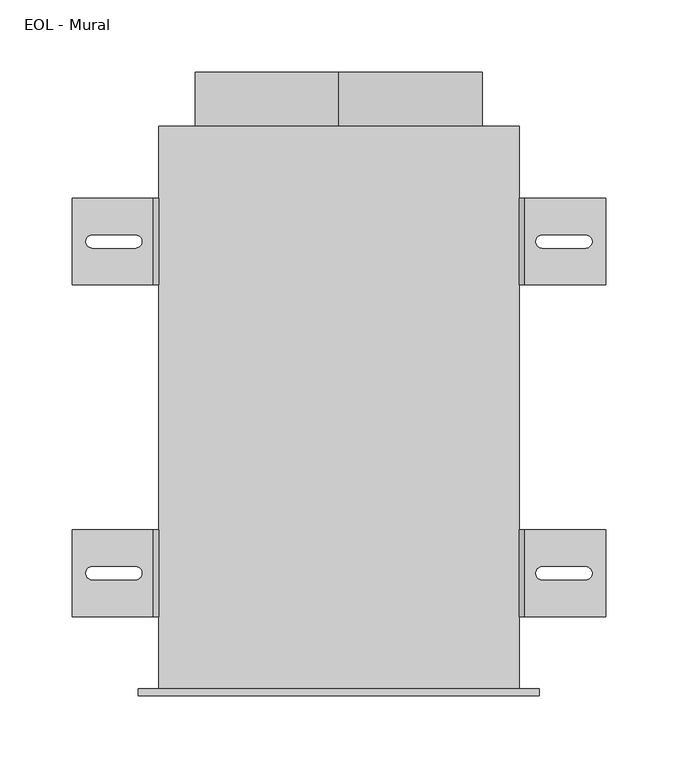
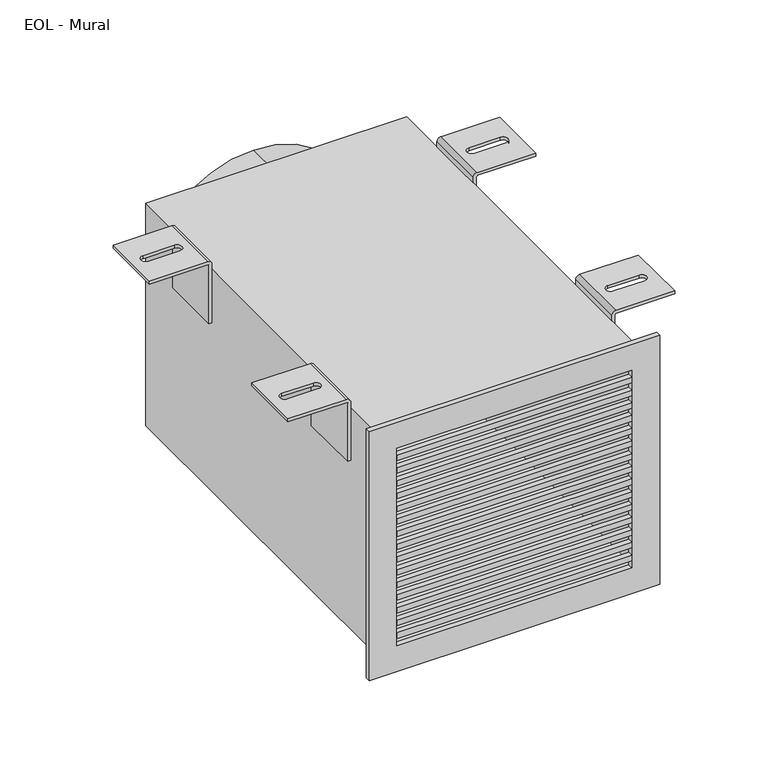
"""IFC4 building model written with IfcOpenShell, lengths in millimetres: air terminal geometry, EOL - Mural : EOL-M200-250x225-2."""

from ifc_helpers import new_model, si_unit, point, frame, origin, origin_2d, place, context, project, spatial, polyline, circle_curve, ellipse_curve, trimmed, segment, composite_curve, outline, extrude, source, transform, mapped, element, save
from ifc_brep_helpers import plane_surface, cylinder_surface, revolved_surface, extruded_surface, advanced_brep


def eol_mural_228bd709(model_context):
    return source(origin(), model_context, "Body", "SolidModel", [
        advanced_brep(
        [(129.0013366, 110.0, 121.5), (185.0, 110.0, 121.5), (185.0, 110.0, 118.5), (129.0, 110.0, 118.5), (128.0, 110.0, 117.5), (128.0, 110.0, 58.5), (125.0, 110.0, 58.5), (125.0, 110.0, 117.4986634), (129.0013366, 50.0, 121.5), (125.0, 50.0, 117.4986634), (125.0, 50.0, 58.5), (128.0, 50.0, 58.5), (128.0, 50.0, 117.5), (129.0, 50.0, 118.5), (185.0, 50.0, 118.5), (185.0, 50.0, 121.5), (171.0287952, 75.4804328, 121.5), (141.0287952, 75.4804328, 121.5), (141.0287952, 84.4804328, 121.5), (171.0287952, 84.4804328, 121.5), (141.0287952, 75.4804328, 118.5), (171.0287952, 75.4804328, 118.5), (171.0287952, 84.4804328, 118.5), (141.0287952, 84.4804328, 118.5)],
        [
            (0, 1),
            (1, 2),
            (2, 3),
            (3, 4, circle_curve(frame((129.0, 110.0, 117.5), z_axis=(0.0, -1.0, 0.0), x_axis=(-1.0000000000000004, 0.0, 0.0)), 1.0)),
            (4, 5),
            (5, 6),
            (6, 7),
            (7, 0, circle_curve(frame((129.0013366, 110.0, 117.4986634), z_axis=(0.0, 1.0, 0.0), x_axis=(-1.0000000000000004, 0.0, 0.0)), 4.0013366)),
            (8, 9, circle_curve(frame((129.0013366, 50.0, 117.4986634), z_axis=(0.0, -1.0, 0.0), x_axis=(-1.0000000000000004, 0.0, 0.0)), 4.0013366)),
            (9, 10),
            (10, 11),
            (11, 12),
            (12, 13, circle_curve(frame((129.0, 50.0, 117.5), z_axis=(0.0, 1.0, 0.0), x_axis=(-1.0000000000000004, 0.0, 0.0)), 1.0)),
            (13, 14),
            (14, 15),
            (15, 8),
            (0, 8),
            (15, 1),
            (16, 17),
            (17, 18, circle_curve(frame((141.0287952, 79.9804328, 121.5), z_axis=(0.0, 0.0, -1.0), x_axis=(0.0, -1.0, 0.0)), 4.5)),
            (18, 19),
            (19, 16, circle_curve(frame((171.0287952, 79.9804328, 121.5), z_axis=(0.0, 0.0, -1.0), x_axis=(0.0, -1.0, 0.0)), 4.5)),
            (14, 2),
            (13, 3),
            (20, 21),
            (21, 22, ellipse_curve(frame((171.0287952, 79.9804328, 118.5), z_axis=(0.0, 0.0, 1.0), x_axis=(0.0, -1.0, 0.0)), 4.5, 4.5)),
            (22, 23),
            (23, 20, ellipse_curve(frame((141.0287952, 79.9804328, 118.5), z_axis=(0.0, 0.0, 1.0), x_axis=(0.0, -1.0, 0.0)), 4.5, 4.5)),
            (12, 4),
            (11, 5),
            (10, 6),
            (9, 7),
            (16, 21),
            (20, 17),
            (19, 22),
            (18, 23),
        ],
        [
            plane_surface(frame((185.0, 110.0, 121.5), z_axis=(0.0, 1.0, 0.0), x_axis=(1.0, 0.0, 0.0))),
            plane_surface(frame((185.0, 50.0, 121.5), z_axis=(0.0, -1.0, 0.0), x_axis=(-1.0, 0.0, 0.0))),
            plane_surface(frame((129.0013366, 110.0, 121.5), z_axis=(0.0, 0.0, 1.0), x_axis=(0.0, -1.0, 0.0))),
            plane_surface(frame((185.0, 110.0, 121.5), z_axis=(1.0, 0.0, 0.0), x_axis=(0.0, -1.0, 0.0))),
            plane_surface(frame((185.0, 110.0, 118.5), z_axis=(0.0, 0.0, -1.0), x_axis=(0.0, -1.0, 0.0))),
            revolved_surface(polyline([(128.0, 50.0, 117.5), (128.0, 110.00000000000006, 117.5)]), (129.0, 50.0, 117.5), (0.0, -1.0000000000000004, 0.0)),
            plane_surface(frame((128.0, 110.0, 117.5), z_axis=(1.0, 0.0, 0.0), x_axis=(0.0, -1.0, 0.0))),
            plane_surface(frame((128.0, 110.0, 58.5), z_axis=(0.0, 0.0, -1.0), x_axis=(0.0, -1.0, 0.0))),
            plane_surface(frame((125.0, 110.0, 58.5), z_axis=(-1.0, 0.0, 0.0), x_axis=(0.0, -1.0, 0.0))),
            cylinder_surface(frame((129.0013366, 50.0, 117.4986634), z_axis=(0.0, 1.0000000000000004, 0.0), x_axis=(-1.0000000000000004, 0.0, 0.0)), 4.0013366),
            plane_surface(frame((141.0287952, 75.4804328, 121.5), z_axis=(0.0, 1.0, 0.0), x_axis=(0.0, 0.0, -1.0))),
            extruded_surface(trimmed(ellipse_curve(frame((171.0287952, 79.9804328, 118.5), z_axis=(0.0, 0.0, 1.0), x_axis=(0.0, -1.0, 0.0)), 4.5, 4.5), [point((171.0287952, 75.4804328, 118.5))], [point((171.0287952, 84.4804328, 118.5))], True, "CARTESIAN"), (0.0, 0.0, -3.0), 3.0),
            plane_surface(frame((171.0287952, 84.4804328, 121.5), z_axis=(0.0, -1.0, 0.0), x_axis=(0.0, 0.0, -1.0))),
            extruded_surface(trimmed(ellipse_curve(frame((141.0287952, 79.9804328, 118.5), z_axis=(0.0, 0.0, 1.0), x_axis=(0.0, -1.0, 0.0)), 4.5, 4.5), [point((141.0287952, 84.4804328, 118.5))], [point((141.0287952, 75.4804328, 118.5))], True, "CARTESIAN"), (0.0, 0.0, -3.0), 3.0),
        ],
        [
            (0, [[1, 2, 3, 4, 5, 6, 7, 8]]),
            (1, [[9, 10, 11, 12, 13, 14, 15, 16]]),
            (2, [[-1, 17, -16, 18], [19, 20, 21, 22]]),
            (3, [[-2, -18, -15, 23]]),
            (4, [[-3, -23, -14, 24], [25, 26, 27, 28]]),
            (5, [[-4, -24, -13, 29]]),
            (6, [[-5, -29, -12, 30]]),
            (7, [[-6, -30, -11, 31]]),
            (8, [[-7, -31, -10, 32]]),
            (9, [[-8, -32, -9, -17]]),
            (10, [[33, -25, 34, -19]]),
            (11, [[-33, -22, 35, -26]]),
            (12, [[-35, -21, 36, -27]]),
            (13, [[-34, -28, -36, -20]]),
        ],
    ),
        advanced_brep(
        [(129.0013366, 340.0, 121.5), (185.0, 340.0, 121.5), (185.0, 340.0, 118.5), (129.0, 340.0, 118.5), (128.0, 340.0, 117.5), (128.0, 340.0, 58.5), (125.0, 340.0, 58.5), (125.0, 340.0, 117.4986634), (129.0013366, 280.0, 121.5), (125.0, 280.0, 117.4986634), (125.0, 280.0, 58.5), (128.0, 280.0, 58.5), (128.0, 280.0, 117.5), (129.0, 280.0, 118.5), (185.0, 280.0, 118.5), (185.0, 280.0, 121.5), (171.0287952, 305.4804328, 121.5), (141.0287952, 305.4804328, 121.5), (141.0287952, 314.4804328, 121.5), (171.0287952, 314.4804328, 121.5), (141.0287952, 305.4804328, 118.5), (171.0287952, 305.4804328, 118.5), (171.0287952, 314.4804328, 118.5), (141.0287952, 314.4804328, 118.5)],
        [
            (0, 1),
            (1, 2),
            (2, 3),
            (3, 4, circle_curve(frame((129.0, 340.0, 117.5), z_axis=(0.0, -1.0, 0.0), x_axis=(-1.0, 0.0, 0.0)), 1.0)),
            (4, 5),
            (5, 6),
            (6, 7),
            (7, 0, circle_curve(frame((129.0013366, 340.0, 117.4986634), z_axis=(0.0, 1.0, 0.0), x_axis=(-1.0, 0.0, 0.0)), 4.0013366)),
            (8, 9, circle_curve(frame((129.0013366, 280.0, 117.4986634), z_axis=(0.0, -1.0, 0.0), x_axis=(-1.0, 0.0, 0.0)), 4.0013366)),
            (9, 10),
            (10, 11),
            (11, 12),
            (12, 13, circle_curve(frame((129.0, 280.0, 117.5), z_axis=(0.0, 1.0, 0.0), x_axis=(-1.0, 0.0, 0.0)), 1.0)),
            (13, 14),
            (14, 15),
            (15, 8),
            (0, 8),
            (15, 1),
            (16, 17),
            (17, 18, circle_curve(frame((141.0287952, 309.9804328, 121.5), z_axis=(0.0, 0.0, -1.0), x_axis=(0.0, -1.0, 0.0)), 4.5)),
            (18, 19),
            (19, 16, circle_curve(frame((171.0287952, 309.9804328, 121.5), z_axis=(0.0, 0.0, -1.0), x_axis=(0.0, -1.0, 0.0)), 4.5)),
            (14, 2),
            (13, 3),
            (20, 21),
            (21, 22, ellipse_curve(frame((171.0287952, 309.9804328, 118.5), z_axis=(0.0, 0.0, 1.0), x_axis=(0.0, -1.0, 0.0)), 4.5, 4.5)),
            (22, 23),
            (23, 20, ellipse_curve(frame((141.0287952, 309.9804328, 118.5), z_axis=(0.0, 0.0, 1.0), x_axis=(0.0, -1.0, 0.0)), 4.5, 4.5)),
            (12, 4),
            (11, 5),
            (10, 6),
            (9, 7),
            (16, 21),
            (20, 17),
            (19, 22),
            (18, 23),
        ],
        [
            plane_surface(frame((185.0, 340.0, 121.5), z_axis=(0.0, 1.0, 0.0), x_axis=(1.0, 0.0, 0.0))),
            plane_surface(frame((185.0, 280.0, 121.5), z_axis=(0.0, -1.0, 0.0), x_axis=(-1.0, 0.0, 0.0))),
            plane_surface(frame((129.0013366, 340.0, 121.5), z_axis=(0.0, 0.0, 1.0), x_axis=(0.0, -1.0, 0.0))),
            plane_surface(frame((185.0, 340.0, 121.5), z_axis=(1.0, 0.0, 0.0), x_axis=(0.0, -1.0, 0.0))),
            plane_surface(frame((185.0, 340.0, 118.5), z_axis=(0.0, 0.0, -1.0), x_axis=(0.0, -1.0, 0.0))),
            revolved_surface(polyline([(128.0, 280.0, 117.5), (128.0, 340.0, 117.5)]), (129.0, 280.0, 117.5), (0.0, -1.0, 0.0)),
            plane_surface(frame((128.0, 340.0, 117.5), z_axis=(1.0, 0.0, 0.0), x_axis=(0.0, -1.0, 0.0))),
            plane_surface(frame((128.0, 340.0, 58.5), z_axis=(0.0, 0.0, -1.0), x_axis=(0.0, -1.0, 0.0))),
            plane_surface(frame((125.0, 340.0, 58.5), z_axis=(-1.0, 0.0, 0.0), x_axis=(0.0, -1.0, 0.0))),
            cylinder_surface(frame((129.0013366, 280.0, 117.4986634), z_axis=(0.0, 1.0, 0.0), x_axis=(-1.0, 0.0, 0.0)), 4.0013366),
            plane_surface(frame((141.0287952, 305.4804328, 121.5), z_axis=(0.0, 1.0, 0.0), x_axis=(0.0, 0.0, -1.0))),
            extruded_surface(trimmed(ellipse_curve(frame((171.0287952, 309.9804328, 118.5), z_axis=(0.0, 0.0, 1.0), x_axis=(0.0, -1.0, 0.0)), 4.5, 4.5), [point((171.0287952, 305.4804328, 118.5))], [point((171.0287952, 314.4804328, 118.5))], True, "CARTESIAN"), (0.0, 0.0, -3.0), 3.0),
            plane_surface(frame((171.0287952, 314.4804328, 121.5), z_axis=(0.0, -1.0, 0.0), x_axis=(0.0, 0.0, -1.0))),
            extruded_surface(trimmed(ellipse_curve(frame((141.0287952, 309.9804328, 118.5), z_axis=(0.0, 0.0, 1.0), x_axis=(0.0, -1.0, 0.0)), 4.5, 4.5), [point((141.0287952, 314.4804328, 118.5))], [point((141.0287952, 305.4804328, 118.5))], True, "CARTESIAN"), (0.0, 0.0, -3.0), 3.0),
        ],
        [
            (0, [[1, 2, 3, 4, 5, 6, 7, 8]]),
            (1, [[9, 10, 11, 12, 13, 14, 15, 16]]),
            (2, [[-1, 17, -16, 18], [19, 20, 21, 22]]),
            (3, [[-2, -18, -15, 23]]),
            (4, [[-3, -23, -14, 24], [25, 26, 27, 28]]),
            (5, [[-4, -24, -13, 29]]),
            (6, [[-5, -29, -12, 30]]),
            (7, [[-6, -30, -11, 31]]),
            (8, [[-7, -31, -10, 32]]),
            (9, [[-8, -32, -9, -17]]),
            (10, [[33, -25, 34, -19]]),
            (11, [[-33, -22, 35, -26]]),
            (12, [[-35, -21, 36, -27]]),
            (13, [[-34, -28, -36, -20]]),
        ],
    ),
        advanced_brep(
        [(-129.0013366, 50.0, 121.5), (-185.0, 50.0, 121.5), (-185.0, 50.0, 118.5), (-129.0, 50.0, 118.5), (-128.0, 50.0, 117.5), (-128.0, 50.0, 58.5), (-125.0, 50.0, 58.5), (-125.0, 50.0, 117.4986634), (-129.0013366, 110.0, 121.5), (-125.0, 110.0, 117.4986634), (-125.0, 110.0, 58.5), (-128.0, 110.0, 58.5), (-128.0, 110.0, 117.5), (-129.0, 110.0, 118.5), (-185.0, 110.0, 118.5), (-185.0, 110.0, 121.5), (-171.0287952, 84.5195672, 121.5), (-141.0287952, 84.5195672, 121.5), (-141.0287952, 75.5195672, 121.5), (-171.0287952, 75.5195672, 121.5), (-141.0287952, 84.5195672, 118.5), (-171.0287952, 84.5195672, 118.5), (-171.0287952, 75.5195672, 118.5), (-141.0287952, 75.5195672, 118.5)],
        [
            (0, 1),
            (1, 2),
            (2, 3),
            (3, 4, circle_curve(frame((-129.0, 50.0, 117.5), z_axis=(0.0, 1.0, 0.0), x_axis=(1.0, 0.0, 0.0)), 1.0)),
            (4, 5),
            (5, 6),
            (6, 7),
            (7, 0, circle_curve(frame((-129.0013366, 50.0, 117.4986634), z_axis=(0.0, -1.0, 0.0), x_axis=(1.0, 0.0, 0.0)), 4.0013366)),
            (8, 9, circle_curve(frame((-129.0013366, 110.0, 117.4986634), z_axis=(0.0, 1.0, 0.0), x_axis=(1.0, 0.0, 0.0)), 4.0013366)),
            (9, 10),
            (10, 11),
            (11, 12),
            (12, 13, circle_curve(frame((-129.0, 110.0, 117.5), z_axis=(0.0, -1.0, 0.0), x_axis=(1.0, 0.0, 0.0)), 1.0)),
            (13, 14),
            (14, 15),
            (15, 8),
            (0, 8),
            (15, 1),
            (16, 17),
            (17, 18, circle_curve(frame((-141.0287952, 80.0195672, 121.5), z_axis=(0.0, 0.0, -1.0), x_axis=(0.0, 1.0, 0.0)), 4.5)),
            (18, 19),
            (19, 16, circle_curve(frame((-171.0287952, 80.0195672, 121.5), z_axis=(0.0, 0.0, -1.0), x_axis=(0.0, 1.0, 0.0)), 4.5)),
            (14, 2),
            (13, 3),
            (20, 21),
            (21, 22, ellipse_curve(frame((-171.0287952, 80.0195672, 118.5), z_axis=(0.0, 0.0, 1.0), x_axis=(0.0, 1.0, 0.0)), 4.5, 4.5)),
            (22, 23),
            (23, 20, ellipse_curve(frame((-141.0287952, 80.0195672, 118.5), z_axis=(0.0, 0.0, 1.0), x_axis=(0.0, 1.0, 0.0)), 4.5, 4.5)),
            (12, 4),
            (11, 5),
            (10, 6),
            (9, 7),
            (16, 21),
            (20, 17),
            (19, 22),
            (18, 23),
        ],
        [
            plane_surface(frame((-185.0, 50.0, 121.5), z_axis=(0.0, -1.0, 0.0), x_axis=(-1.0, 0.0, 0.0))),
            plane_surface(frame((-185.0, 110.0, 121.5), z_axis=(0.0, 1.0, 0.0), x_axis=(1.0, 0.0, 0.0))),
            plane_surface(frame((-129.0013366, 50.0, 121.5), z_axis=(0.0, 0.0, 1.0), x_axis=(0.0, 1.0, 0.0))),
            plane_surface(frame((-185.0, 50.0, 121.5), z_axis=(-1.0, 0.0, 0.0), x_axis=(0.0, 1.0, 0.0))),
            plane_surface(frame((-185.0, 50.0, 118.5), z_axis=(0.0, 0.0, -1.0), x_axis=(0.0, 1.0, 0.0))),
            revolved_surface(polyline([(-128.0, 110.0, 117.5), (-128.0, 50.0, 117.5)]), (-129.0, 110.0, 117.5), (0.0, 1.0, 0.0)),
            plane_surface(frame((-128.0, 50.0, 117.5), z_axis=(-1.0, 0.0, 0.0), x_axis=(0.0, 1.0, 0.0))),
            plane_surface(frame((-128.0, 50.0, 58.5), z_axis=(0.0, 0.0, -1.0), x_axis=(0.0, 1.0, 0.0))),
            plane_surface(frame((-125.0, 50.0, 58.5), z_axis=(1.0, 0.0, 0.0), x_axis=(0.0, 1.0, 0.0))),
            cylinder_surface(frame((-129.0013366, 110.0, 117.4986634), z_axis=(0.0, -1.0, 0.0), x_axis=(1.0, 0.0, 0.0)), 4.0013366),
            plane_surface(frame((-141.0287952, 84.5195672, 121.5), z_axis=(0.0, -1.0, 0.0), x_axis=(0.0, 0.0, -1.0))),
            extruded_surface(trimmed(ellipse_curve(frame((-171.0287952, 80.0195672, 118.5), z_axis=(0.0, 0.0, 1.0), x_axis=(0.0, 1.0, 0.0)), 4.5, 4.5), [point((-171.0287952, 84.5195672, 118.5))], [point((-171.0287952, 75.5195672, 118.5))], True, "CARTESIAN"), (0.0, 0.0, -3.0), 3.0),
            plane_surface(frame((-171.0287952, 75.5195672, 121.5), z_axis=(0.0, 1.0, 0.0), x_axis=(0.0, 0.0, -1.0))),
            extruded_surface(trimmed(ellipse_curve(frame((-141.0287952, 80.0195672, 118.5), z_axis=(0.0, 0.0, 1.0), x_axis=(0.0, 1.0, 0.0)), 4.5, 4.5), [point((-141.0287952, 75.5195672, 118.5))], [point((-141.0287952, 84.5195672, 118.5))], True, "CARTESIAN"), (0.0, 0.0, -3.0), 3.0),
        ],
        [
            (0, [[1, 2, 3, 4, 5, 6, 7, 8]]),
            (1, [[9, 10, 11, 12, 13, 14, 15, 16]]),
            (2, [[-1, 17, -16, 18], [19, 20, 21, 22]]),
            (3, [[-2, -18, -15, 23]]),
            (4, [[-3, -23, -14, 24], [25, 26, 27, 28]]),
            (5, [[-4, -24, -13, 29]]),
            (6, [[-5, -29, -12, 30]]),
            (7, [[-6, -30, -11, 31]]),
            (8, [[-7, -31, -10, 32]]),
            (9, [[-8, -32, -9, -17]]),
            (10, [[33, -25, 34, -19]]),
            (11, [[-33, -22, 35, -26]]),
            (12, [[-35, -21, 36, -27]]),
            (13, [[-34, -28, -36, -20]]),
        ],
    ),
        advanced_brep(
        [(-129.0013366, 280.0, 121.5), (-185.0, 280.0, 121.5), (-185.0, 280.0, 118.5), (-129.0, 280.0, 118.5), (-128.0, 280.0, 117.5), (-128.0, 280.0, 58.5), (-125.0, 280.0, 58.5), (-125.0, 280.0, 117.4986634), (-129.0013366, 340.0, 121.5), (-125.0, 340.0, 117.4986634), (-125.0, 340.0, 58.5), (-128.0, 340.0, 58.5), (-128.0, 340.0, 117.5), (-129.0, 340.0, 118.5), (-185.0, 340.0, 118.5), (-185.0, 340.0, 121.5), (-171.0287952, 314.5195672, 121.5), (-141.0287952, 314.5195672, 121.5), (-141.0287952, 305.5195672, 121.5), (-171.0287952, 305.5195672, 121.5), (-141.0287952, 314.5195672, 118.5), (-171.0287952, 314.5195672, 118.5), (-171.0287952, 305.5195672, 118.5), (-141.0287952, 305.5195672, 118.5)],
        [
            (0, 1),
            (1, 2),
            (2, 3),
            (3, 4, circle_curve(frame((-129.0, 280.0, 117.5), z_axis=(0.0, 1.0, 0.0), x_axis=(1.0, 0.0, 0.0)), 1.0)),
            (4, 5),
            (5, 6),
            (6, 7),
            (7, 0, circle_curve(frame((-129.0013366, 280.0, 117.4986634), z_axis=(0.0, -1.0, 0.0), x_axis=(1.0, 0.0, 0.0)), 4.0013366)),
            (8, 9, circle_curve(frame((-129.0013366, 340.0, 117.4986634), z_axis=(0.0, 1.0, 0.0), x_axis=(1.0, 0.0, 0.0)), 4.0013366)),
            (9, 10),
            (10, 11),
            (11, 12),
            (12, 13, circle_curve(frame((-129.0, 340.0, 117.5), z_axis=(0.0, -1.0, 0.0), x_axis=(1.0, 0.0, 0.0)), 1.0)),
            (13, 14),
            (14, 15),
            (15, 8),
            (0, 8),
            (15, 1),
            (16, 17),
            (17, 18, circle_curve(frame((-141.0287952, 310.0195672, 121.5), z_axis=(0.0, 0.0, -1.0), x_axis=(0.0, 1.0, 0.0)), 4.5)),
            (18, 19),
            (19, 16, circle_curve(frame((-171.0287952, 310.0195672, 121.5), z_axis=(0.0, 0.0, -1.0), x_axis=(0.0, 1.0, 0.0)), 4.5)),
            (14, 2),
            (13, 3),
            (20, 21),
            (21, 22, ellipse_curve(frame((-171.0287952, 310.0195672, 118.5), z_axis=(0.0, 0.0, 1.0), x_axis=(0.0, 1.0, 0.0)), 4.5, 4.5)),
            (22, 23),
            (23, 20, ellipse_curve(frame((-141.0287952, 310.0195672, 118.5), z_axis=(0.0, 0.0, 1.0), x_axis=(0.0, 1.0, 0.0)), 4.5, 4.5)),
            (12, 4),
            (11, 5),
            (10, 6),
            (9, 7),
            (16, 21),
            (20, 17),
            (19, 22),
            (18, 23),
        ],
        [
            plane_surface(frame((-185.0, 280.0, 121.5), z_axis=(0.0, -1.0, 0.0), x_axis=(-1.0, 0.0, 0.0))),
            plane_surface(frame((-185.0, 340.0, 121.5), z_axis=(0.0, 1.0, 0.0), x_axis=(1.0, 0.0, 0.0))),
            plane_surface(frame((-129.0013366, 280.0, 121.5), z_axis=(0.0, 0.0, 1.0), x_axis=(0.0, 1.0, 0.0))),
            plane_surface(frame((-185.0, 280.0, 121.5), z_axis=(-1.0, 0.0, 0.0), x_axis=(0.0, 1.0, 0.0))),
            plane_surface(frame((-185.0, 280.0, 118.5), z_axis=(0.0, 0.0, -1.0), x_axis=(0.0, 1.0, 0.0))),
            revolved_surface(polyline([(-128.0, 340.0, 117.5), (-128.0, 280.0, 117.5)]), (-129.0, 340.0, 117.5), (0.0, 1.0, 0.0)),
            plane_surface(frame((-128.0, 280.0, 117.5), z_axis=(-1.0, 0.0, 0.0), x_axis=(0.0, 1.0, 0.0))),
            plane_surface(frame((-128.0, 280.0, 58.5), z_axis=(0.0, 0.0, -1.0), x_axis=(0.0, 1.0, 0.0))),
            plane_surface(frame((-125.0, 280.0, 58.5), z_axis=(1.0, 0.0, 0.0), x_axis=(0.0, 1.0, 0.0))),
            cylinder_surface(frame((-129.0013366, 340.0, 117.4986634), z_axis=(0.0, -1.0, 0.0), x_axis=(1.0, 0.0, 0.0)), 4.0013366),
            plane_surface(frame((-141.0287952, 314.5195672, 121.5), z_axis=(0.0, -1.0, 0.0), x_axis=(0.0, 0.0, -1.0))),
            extruded_surface(trimmed(ellipse_curve(frame((-171.0287952, 310.0195672, 118.5), z_axis=(0.0, 0.0, 1.0), x_axis=(0.0, 1.0, 0.0)), 4.5, 4.5), [point((-171.0287952, 314.5195672, 118.5))], [point((-171.0287952, 305.5195672, 118.5))], True, "CARTESIAN"), (0.0, 0.0, -3.0), 3.0),
            plane_surface(frame((-171.0287952, 305.5195672, 121.5), z_axis=(0.0, 1.0, 0.0), x_axis=(0.0, 0.0, -1.0))),
            extruded_surface(trimmed(ellipse_curve(frame((-141.0287952, 310.0195672, 118.5), z_axis=(0.0, 0.0, 1.0), x_axis=(0.0, 1.0, 0.0)), 4.5, 4.5), [point((-141.0287952, 305.5195672, 118.5))], [point((-141.0287952, 314.5195672, 118.5))], True, "CARTESIAN"), (0.0, 0.0, -3.0), 3.0),
        ],
        [
            (0, [[1, 2, 3, 4, 5, 6, 7, 8]]),
            (1, [[9, 10, 11, 12, 13, 14, 15, 16]]),
            (2, [[-1, 17, -16, 18], [19, 20, 21, 22]]),
            (3, [[-2, -18, -15, 23]]),
            (4, [[-3, -23, -14, 24], [25, 26, 27, 28]]),
            (5, [[-4, -24, -13, 29]]),
            (6, [[-5, -29, -12, 30]]),
            (7, [[-6, -30, -11, 31]]),
            (8, [[-7, -31, -10, 32]]),
            (9, [[-8, -32, -9, -17]]),
            (10, [[33, -25, 34, -19]]),
            (11, [[-33, -22, 35, -26]]),
            (12, [[-35, -21, 36, -27]]),
            (13, [[-34, -28, -36, -20]]),
        ],
    ),
        extrude(outline(composite_curve([segment(trimmed(circle_curve(origin_2d(), 100.0), [point((-100.0, 0.0))], [point((100.0, 0.0))], False, "CARTESIAN"), True, "CONTINUOUS"), segment(trimmed(circle_curve(origin_2d(), 100.0), [point((100.0, 0.0))], [point((-100.0, 0.0))], False, "CARTESIAN"), True, "CONTINUOUS")], self_intersect=False), holes=[composite_curve([segment(trimmed(circle_curve(origin_2d(), 99.0), [point((0.0, 99.0))], [point((0.0, -99.0))], True, "CARTESIAN"), True, "CONTINUOUS"), segment(trimmed(circle_curve(origin_2d(), 99.0), [point((0.0, -99.0))], [point((0.0, 99.0))], True, "CARTESIAN"), True, "CONTINUOUS")], self_intersect=False)]), frame((0.0, 390.0, 0.0), z_axis=(0.0, 1.0, 0.0), x_axis=(0.0, 0.0, 1.0)), (0.0, 0.0, 1.0), 37.5),
        extrude(outline(polyline([(112.5, 0.0), (112.5, -5.0), (-112.5, -5.0), (-112.5, 0.0), (112.5, 0.0)])), frame((0.0, 0.0, 87.15), z_axis=(0.0, 0.0, 1.0), x_axis=(1.0, 0.0, 0.0)), (0.0, 0.0, 1.0), 5.6),
        extrude(outline(polyline([(112.5, 0.0), (112.5, -5.0), (-112.5, -5.0), (-112.5, 0.0), (112.5, 0.0)])), frame((0.0, 0.0, 74.3), z_axis=(0.0, 0.0, 1.0), x_axis=(1.0, 0.0, 0.0)), (0.0, 0.0, 1.0), 5.6),
        extrude(outline(polyline([(112.5, 0.0), (112.5, -5.0), (-112.5, -5.0), (-112.5, 0.0), (112.5, 0.0)])), frame((0.0, 0.0, 61.45), z_axis=(0.0, 0.0, 1.0), x_axis=(1.0, 0.0, 0.0)), (0.0, 0.0, 1.0), 5.6),
        extrude(outline(polyline([(112.5, 0.0), (112.5, -5.0), (-112.5, -5.0), (-112.5, 0.0), (112.5, 0.0)])), frame((0.0, 0.0, 48.6), z_axis=(0.0, 0.0, 1.0), x_axis=(1.0, 0.0, 0.0)), (0.0, 0.0, 1.0), 5.6),
        extrude(outline(polyline([(112.5, 0.0), (112.5, -5.0), (-112.5, -5.0), (-112.5, 0.0), (112.5, 0.0)])), frame((0.0, 0.0, 35.75), z_axis=(0.0, 0.0, 1.0), x_axis=(1.0, 0.0, 0.0)), (0.0, 0.0, 1.0), 5.6),
        extrude(outline(polyline([(112.5, 0.0), (112.5, -5.0), (-112.5, -5.0), (-112.5, 0.0), (112.5, 0.0)])), frame((0.0, 0.0, 22.9), z_axis=(0.0, 0.0, 1.0), x_axis=(1.0, 0.0, 0.0)), (0.0, 0.0, 1.0), 5.6),
        extrude(outline(polyline([(112.5, 0.0), (112.5, -5.0), (-112.5, -5.0), (-112.5, 0.0), (112.5, 0.0)])), frame((0.0, 0.0, 10.05), z_axis=(0.0, 0.0, 1.0), x_axis=(1.0, 0.0, 0.0)), (0.0, 0.0, 1.0), 5.6),
        extrude(outline(polyline([(112.5, 0.0), (112.5, -5.0), (-112.5, -5.0), (-112.5, 0.0), (112.5, 0.0)])), frame((0.0, 0.0, -2.8), z_axis=(0.0, 0.0, 1.0), x_axis=(1.0, 0.0, 0.0)), (0.0, 0.0, 1.0), 5.6),
        extrude(outline(polyline([(112.5, 0.0), (112.5, -5.0), (-112.5, -5.0), (-112.5, 0.0), (112.5, 0.0)])), frame((0.0, 0.0, -15.65), z_axis=(0.0, 0.0, 1.0), x_axis=(1.0, 0.0, 0.0)), (0.0, 0.0, 1.0), 5.6),
        extrude(outline(polyline([(112.5, 0.0), (112.5, -5.0), (-112.5, -5.0), (-112.5, 0.0), (112.5, 0.0)])), frame((0.0, 0.0, -28.5), z_axis=(0.0, 0.0, 1.0), x_axis=(1.0, 0.0, 0.0)), (0.0, 0.0, 1.0), 5.6),
        extrude(outline(polyline([(112.5, 0.0), (112.5, -5.0), (-112.5, -5.0), (-112.5, 0.0), (112.5, 0.0)])), frame((0.0, 0.0, -41.35), z_axis=(0.0, 0.0, 1.0), x_axis=(1.0, 0.0, 0.0)), (0.0, 0.0, 1.0), 5.6),
        extrude(outline(polyline([(112.5, 0.0), (112.5, -5.0), (-112.5, -5.0), (-112.5, 0.0), (112.5, 0.0)])), frame((0.0, 0.0, -54.2), z_axis=(0.0, 0.0, 1.0), x_axis=(1.0, 0.0, 0.0)), (0.0, 0.0, 1.0), 5.6),
        extrude(outline(polyline([(112.5, 0.0), (112.5, -5.0), (-112.5, -5.0), (-112.5, 0.0), (112.5, 0.0)])), frame((0.0, 0.0, -67.05), z_axis=(0.0, 0.0, 1.0), x_axis=(1.0, 0.0, 0.0)), (0.0, 0.0, 1.0), 5.6),
        extrude(outline(polyline([(112.5, 0.0), (112.5, -5.0), (-112.5, -5.0), (-112.5, 0.0), (112.5, 0.0)])), frame((0.0, 0.0, -79.9), z_axis=(0.0, 0.0, 1.0), x_axis=(1.0, 0.0, 0.0)), (0.0, 0.0, 1.0), 5.6),
        extrude(outline(polyline([(112.5, 0.0), (112.5, -5.0), (-112.5, -5.0), (-112.5, 0.0), (112.5, 0.0)])), frame((0.0, 0.0, -92.75), z_axis=(0.0, 0.0, 1.0), x_axis=(1.0, 0.0, 0.0)), (0.0, 0.0, 1.0), 5.6),
        extrude(outline(polyline([(126.0, 139.0), (126.0, -139.0), (-126.0, -139.0), (-126.0, 139.0), (126.0, 139.0)]), holes=[polyline([(100.0, 112.5), (-100.0, 112.5), (-100.0, -112.5), (100.0, -112.5), (100.0, 112.5)])]), frame((0.0, -5.0, 0.0), z_axis=(0.0, 1.0, 0.0), x_axis=(0.0, 0.0, 1.0)), (0.0, 0.0, 1.0), 5.0),
        advanced_brep(
        [(125.0, 390.0, 112.5), (-125.0, 390.0, 112.5), (-125.0, 0.0, 112.5), (125.0, 0.0, 112.5), (125.0, 390.0, -112.5), (125.0, 0.0, -112.5), (-125.0, 0.0, -112.5), (-125.0, 390.0, -112.5), (-99.0, 390.0, 0.0), (99.0, 390.0, 0.0), (-120.0, 0.0, 107.5), (120.0, 0.0, 107.5), (120.0, 0.0, -107.5), (-120.0, 0.0, -107.5), (120.0, 385.0, 107.5), (-120.0, 385.0, 107.5), (120.0, 385.0, -107.5), (-120.0, 385.0, -107.5), (99.0, 385.0, 0.0), (-99.0, 385.0, 0.0)],
        [
            (0, 1),
            (1, 2),
            (2, 3),
            (3, 0),
            (4, 5),
            (5, 6),
            (6, 7),
            (7, 4),
            (0, 4),
            (7, 1),
            (8, 9, circle_curve(frame((0.0, 390.0, 0.0), z_axis=(0.0, -1.0, 0.0), x_axis=(1.0, 0.0, 0.0)), 99.0)),
            (9, 8, circle_curve(frame((0.0, 390.0, 0.0), z_axis=(0.0, -1.0, 0.0), x_axis=(1.0, 0.0, 0.0)), 99.0)),
            (6, 2),
            (5, 3),
            (10, 11),
            (11, 12),
            (12, 13),
            (13, 10),
            (14, 11),
            (10, 15),
            (15, 14),
            (16, 17),
            (17, 13),
            (12, 16),
            (15, 17),
            (16, 14),
            (18, 19, circle_curve(frame((0.0, 385.0, 0.0), z_axis=(0.0, 1.0, 0.0), x_axis=(1.0, 0.0, 0.0)), 99.0)),
            (19, 18, circle_curve(frame((0.0, 385.0, 0.0), z_axis=(0.0, 1.0, 0.0), x_axis=(1.0, 0.0, 0.0)), 99.0)),
            (8, 19),
            (18, 9),
        ],
        [
            plane_surface(frame((-125.0, 390.0, 112.5), z_axis=(0.0, 0.0, 1.0), x_axis=(-1.0, 0.0, 0.0))),
            plane_surface(frame((-125.0, 390.0, -112.5), z_axis=(0.0, 0.0, -1.0), x_axis=(1.0, 0.0, 0.0))),
            plane_surface(frame((125.0, 390.0, 112.5), z_axis=(0.0, 1.0, 0.0), x_axis=(0.0, 0.0, -1.0))),
            plane_surface(frame((-125.0, 390.0, 112.5), z_axis=(-1.0, 0.0, 0.0), x_axis=(0.0, 0.0, -1.0))),
            plane_surface(frame((-125.0, 0.0, 112.5), z_axis=(0.0, -1.0, 0.0), x_axis=(0.0, 0.0, -1.0))),
            plane_surface(frame((125.0, 0.0, 112.5), z_axis=(1.0, 0.0, 0.0), x_axis=(0.0, 0.0, -1.0))),
            plane_surface(frame((-120.0, 385.0, 107.5), z_axis=(0.0, 0.0, -1.0), x_axis=(-1.0, 0.0, 0.0))),
            plane_surface(frame((-120.0, 385.0, -107.5), z_axis=(0.0, 0.0, 1.0), x_axis=(1.0, 0.0, 0.0))),
            plane_surface(frame((120.0, 385.0, 107.5), z_axis=(0.0, -1.0, 0.0), x_axis=(0.0, 0.0, -1.0))),
            plane_surface(frame((-120.0, 385.0, 107.5), z_axis=(1.0, 0.0, 0.0), x_axis=(0.0, 0.0, -1.0))),
            plane_surface(frame((120.0, 0.0, 107.5), z_axis=(-1.0, 0.0, 0.0), x_axis=(0.0, 0.0, -1.0))),
            revolved_surface(polyline([(99.0, 385.0, 0.0), (99.0, 390.0, 0.0)]), (0.0, 427.5, 0.0), (0.0, -1.0, 0.0)),
        ],
        [
            (0, [[1, 2, 3, 4]]),
            (1, [[5, 6, 7, 8]]),
            (2, [[-1, 9, -8, 10], [11, 12]]),
            (3, [[-2, -10, -7, 13]]),
            (4, [[-3, -13, -6, 14], [15, 16, 17, 18]]),
            (5, [[-4, -14, -5, -9]]),
            (6, [[19, -15, 20, 21]]),
            (7, [[22, 23, -17, 24]]),
            (8, [[-21, 25, -22, 26], [27, 28]]),
            (9, [[-20, -18, -23, -25]]),
            (10, [[-19, -26, -24, -16]]),
            (11, [[29, -27, 30, -11]]),
            (11, [[-29, -12, -30, -28]]),
        ],
    ),
    ])


if __name__ == "__main__":
    model = new_model("IFC4")
    model_context = context("Model", 3, world=origin())
    ifc_project = project(units=[si_unit("LENGTHUNIT", "METRE", prefix="MILLI")], contexts=[model_context])
    site = spatial("IfcSite", under=ifc_project)
    building = spatial("IfcBuilding", under=site)
    placement = place(None, origin())
    eol_mural_shape = eol_mural_228bd709(model_context)
    element("IfcAirTerminal", 1, ObjectType="EOL - Mural : EOL-M200-250x225-2", at=placement, inside=building, context=model_context, shape_type="MappedRepresentation", body=[
        mapped(eol_mural_shape, transform((0.0, 0.0, 0.0), x_axis=(1.0, 0.0, 0.0), y_axis=(0.0, 1.0, 0.0), z_axis=(0.0, 0.0, 1.0))),
    ])
    save(model, "model.ifc")
